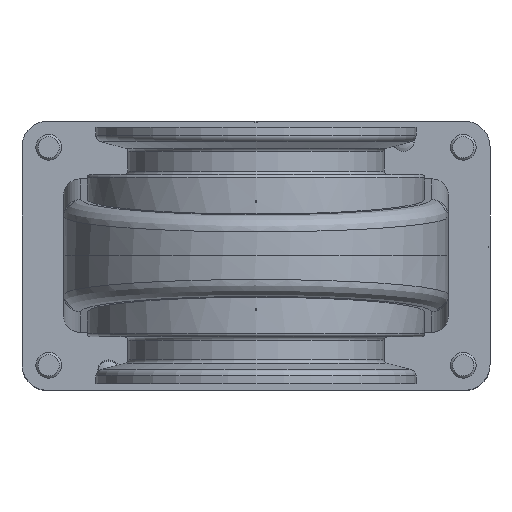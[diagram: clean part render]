
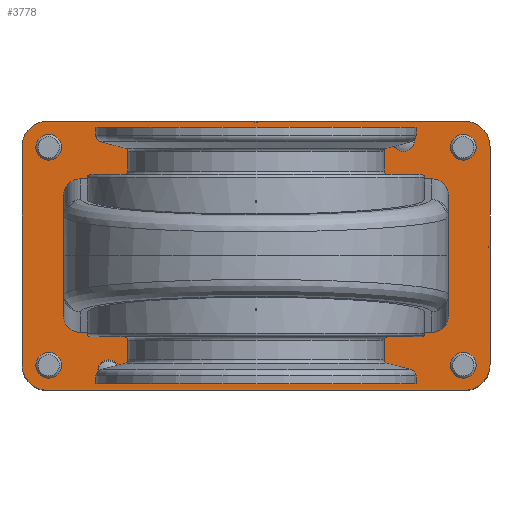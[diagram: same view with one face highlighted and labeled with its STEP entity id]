
A CAD part, front view. The second image highlights one B-rep face of the part: STEP entity #3778.
In plain terms, the highlighted planar face has unit normal (0, -1, 0).
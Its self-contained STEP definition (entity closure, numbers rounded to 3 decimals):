
#3778=ADVANCED_FACE('',(#5201,#5202,#5203,#5204,#5205,#5206,#5207,#5208),
#4618,.T.);
#4618=PLANE('',#18848);
#5201=FACE_BOUND('',#5933,.T.);
#5202=FACE_BOUND('',#5934,.T.);
#5203=FACE_BOUND('',#5935,.T.);
#5204=FACE_BOUND('',#5936,.T.);
#5205=FACE_BOUND('',#5937,.T.);
#5206=FACE_BOUND('',#5938,.T.);
#5207=FACE_BOUND('',#5939,.T.);
#5208=FACE_BOUND('',#5940,.T.);
#5933=EDGE_LOOP('',(#10189));
#5934=EDGE_LOOP('',(#10190));
#5935=EDGE_LOOP('',(#10191));
#5936=EDGE_LOOP('',(#10192));
#5937=EDGE_LOOP('',(#10193));
#5938=EDGE_LOOP('',(#10194));
#5939=EDGE_LOOP('',(#10195,#10196,#10197,#10198,#10199,#10200,#10201,#10202));
#5940=EDGE_LOOP('',(#10203,#10204,#10205,#10206,#10207,#10208,#10209,#10210));
#7086=LINE('',#26523,#8144);
#7093=LINE('',#26709,#8151);
#7107=LINE('',#26738,#8165);
#7133=LINE('',#26823,#8191);
#7138=LINE('',#26835,#8196);
#7142=LINE('',#26844,#8200);
#7146=LINE('',#26859,#8204);
#7151=LINE('',#26873,#8209);
#8144=VECTOR('',#20941,1.);
#8151=VECTOR('',#20950,1.);
#8165=VECTOR('',#20966,1.);
#8191=VECTOR('',#21034,1.);
#8196=VECTOR('',#21045,1.);
#8200=VECTOR('',#21055,1.);
#8204=VECTOR('',#21075,1.);
#8209=VECTOR('',#21092,1.);
#10189=ORIENTED_EDGE('',*,*,#16039,.F.);
#10190=ORIENTED_EDGE('',*,*,#16040,.F.);
#10191=ORIENTED_EDGE('',*,*,#16041,.F.);
#10192=ORIENTED_EDGE('',*,*,#16042,.F.);
#10193=ORIENTED_EDGE('',*,*,#16043,.F.);
#10194=ORIENTED_EDGE('',*,*,#16044,.F.);
#10195=ORIENTED_EDGE('',*,*,#16016,.T.);
#10196=ORIENTED_EDGE('',*,*,#15945,.T.);
#10197=ORIENTED_EDGE('',*,*,#16018,.T.);
#10198=ORIENTED_EDGE('',*,*,#16020,.T.);
#10199=ORIENTED_EDGE('',*,*,#16022,.T.);
#10200=ORIENTED_EDGE('',*,*,#15959,.T.);
#10201=ORIENTED_EDGE('',*,*,#16023,.T.);
#10202=ORIENTED_EDGE('',*,*,#15904,.T.);
#10203=ORIENTED_EDGE('',*,*,#15998,.T.);
#10204=ORIENTED_EDGE('',*,*,#16001,.T.);
#10205=ORIENTED_EDGE('',*,*,#16003,.T.);
#10206=ORIENTED_EDGE('',*,*,#16007,.T.);
#10207=ORIENTED_EDGE('',*,*,#16010,.T.);
#10208=ORIENTED_EDGE('',*,*,#16012,.T.);
#10209=ORIENTED_EDGE('',*,*,#16014,.T.);
#10210=ORIENTED_EDGE('',*,*,#16028,.T.);
#14129=VERTEX_POINT('',#26524);
#14130=VERTEX_POINT('',#26525);
#14170=VERTEX_POINT('',#26708);
#14171=VERTEX_POINT('',#26710);
#14184=VERTEX_POINT('',#26737);
#14185=VERTEX_POINT('',#26739);
#14221=VERTEX_POINT('',#26818);
#14222=VERTEX_POINT('',#26819);
#14223=VERTEX_POINT('',#26824);
#14224=VERTEX_POINT('',#26828);
#14226=VERTEX_POINT('',#26834);
#14228=VERTEX_POINT('',#26841);
#14229=VERTEX_POINT('',#26845);
#14230=VERTEX_POINT('',#26849);
#14231=VERTEX_POINT('',#26856);
#14232=VERTEX_POINT('',#26860);
#14244=VERTEX_POINT('',#26896);
#14245=VERTEX_POINT('',#26898);
#14246=VERTEX_POINT('',#26900);
#14247=VERTEX_POINT('',#26902);
#14248=VERTEX_POINT('',#26904);
#14249=VERTEX_POINT('',#26906);
#15904=EDGE_CURVE('',#14129,#14130,#7086,.T.);
#15945=EDGE_CURVE('',#14171,#14170,#7093,.T.);
#15959=EDGE_CURVE('',#14185,#14184,#7107,.T.);
#15998=EDGE_CURVE('',#14221,#14222,#17914,.T.);
#16001=EDGE_CURVE('',#14222,#14223,#7133,.T.);
#16003=EDGE_CURVE('',#14223,#14224,#17915,.T.);
#16007=EDGE_CURVE('',#14224,#14226,#7138,.T.);
#16010=EDGE_CURVE('',#14226,#14228,#17916,.T.);
#16012=EDGE_CURVE('',#14228,#14229,#7142,.T.);
#16014=EDGE_CURVE('',#14229,#14230,#17917,.T.);
#16016=EDGE_CURVE('',#14130,#14171,#17918,.T.);
#16018=EDGE_CURVE('',#14170,#14231,#17920,.T.);
#16020=EDGE_CURVE('',#14231,#14232,#7146,.T.);
#16022=EDGE_CURVE('',#14232,#14185,#17921,.T.);
#16023=EDGE_CURVE('',#14184,#14129,#17922,.T.);
#16028=EDGE_CURVE('',#14230,#14221,#7151,.T.);
#16039=EDGE_CURVE('',#14244,#14244,#17929,.T.);
#16040=EDGE_CURVE('',#14245,#14245,#17930,.T.);
#16041=EDGE_CURVE('',#14246,#14246,#17931,.T.);
#16042=EDGE_CURVE('',#14247,#14247,#17932,.T.);
#16043=EDGE_CURVE('',#14248,#14248,#17933,.T.);
#16044=EDGE_CURVE('',#14249,#14249,#17934,.T.);
#17914=CIRCLE('',#18813,2.);
#17915=CIRCLE('',#18816,2.);
#17916=CIRCLE('',#18819,2.);
#17917=CIRCLE('',#18822,2.);
#17918=CIRCLE('',#18824,6.);
#17920=CIRCLE('',#18827,6.);
#17921=CIRCLE('',#18830,6.);
#17922=CIRCLE('',#18832,6.);
#17929=CIRCLE('',#18842,2.5);
#17930=CIRCLE('',#18843,2.5);
#17931=CIRCLE('',#18844,2.5);
#17932=CIRCLE('',#18845,2.5);
#17933=CIRCLE('',#18846,2.6);
#17934=CIRCLE('',#18847,2.6);
#18813=AXIS2_PLACEMENT_3D('',#26817,#21028,#21029);
#18816=AXIS2_PLACEMENT_3D('',#26827,#21038,#21039);
#18819=AXIS2_PLACEMENT_3D('',#26840,#21050,#21051);
#18822=AXIS2_PLACEMENT_3D('',#26848,#21059,#21060);
#18824=AXIS2_PLACEMENT_3D('',#26852,#21064,#21065);
#18827=AXIS2_PLACEMENT_3D('',#26855,#21070,#21071);
#18830=AXIS2_PLACEMENT_3D('',#26863,#21079,#21080);
#18832=AXIS2_PLACEMENT_3D('',#26865,#21083,#21084);
#18842=AXIS2_PLACEMENT_3D('',#26895,#21112,#21113);
#18843=AXIS2_PLACEMENT_3D('',#26897,#21114,#21115);
#18844=AXIS2_PLACEMENT_3D('',#26899,#21116,#21117);
#18845=AXIS2_PLACEMENT_3D('',#26901,#21118,#21119);
#18846=AXIS2_PLACEMENT_3D('',#26903,#21120,#21121);
#18847=AXIS2_PLACEMENT_3D('',#26905,#21122,#21123);
#18848=AXIS2_PLACEMENT_3D('',#26907,#21124,#21125);
#20941=DIRECTION('',(0.,0.,1.));
#20950=DIRECTION('',(-1.,0.,0.));
#20966=DIRECTION('',(1.,0.,0.));
#21028=DIRECTION('',(0.,1.,0.));
#21029=DIRECTION('',(-1.,0.,0.));
#21034=DIRECTION('',(0.,0.,1.));
#21038=DIRECTION('',(0.,1.,0.));
#21039=DIRECTION('',(-1.,0.,0.));
#21045=DIRECTION('',(1.,0.,0.));
#21050=DIRECTION('',(0.,1.,0.));
#21051=DIRECTION('',(1.,0.,0.));
#21055=DIRECTION('',(0.,0.,-1.));
#21059=DIRECTION('',(0.,1.,0.));
#21060=DIRECTION('',(1.,0.,0.));
#21064=DIRECTION('',(0.,-1.,0.));
#21065=DIRECTION('',(1.,0.,0.));
#21070=DIRECTION('',(0.,-1.,0.));
#21071=DIRECTION('',(-1.,0.,0.));
#21075=DIRECTION('',(0.,0.,-1.));
#21079=DIRECTION('',(0.,-1.,0.));
#21080=DIRECTION('',(-1.,0.,0.));
#21083=DIRECTION('',(0.,-1.,0.));
#21084=DIRECTION('',(1.,0.,0.));
#21092=DIRECTION('',(-1.,0.,0.));
#21112=DIRECTION('',(0.,-1.,0.));
#21113=DIRECTION('',(0.,0.,-1.));
#21114=DIRECTION('',(0.,-1.,0.));
#21115=DIRECTION('',(0.,0.,-1.));
#21116=DIRECTION('',(0.,-1.,0.));
#21117=DIRECTION('',(0.,0.,-1.));
#21118=DIRECTION('',(0.,-1.,0.));
#21119=DIRECTION('',(0.,0.,-1.));
#21120=DIRECTION('',(0.,-1.,0.));
#21121=DIRECTION('',(0.,0.,-1.));
#21122=DIRECTION('',(0.,-1.,0.));
#21123=DIRECTION('',(0.,0.,-1.));
#21124=DIRECTION('',(0.,-1.,0.));
#21125=DIRECTION('',(-1.,0.,0.));
#26523=CARTESIAN_POINT('',(54.75,125.,-25.5));
#26524=CARTESIAN_POINT('',(54.75,125.,-25.5));
#26525=CARTESIAN_POINT('',(54.75,125.,25.5));
#26708=CARTESIAN_POINT('',(-48.75,125.,31.5));
#26709=CARTESIAN_POINT('',(48.75,125.,31.5));
#26710=CARTESIAN_POINT('',(48.75,125.,31.5));
#26737=CARTESIAN_POINT('',(48.75,125.,-31.5));
#26738=CARTESIAN_POINT('',(-48.75,125.,-31.5));
#26739=CARTESIAN_POINT('',(-48.75,125.,-31.5));
#26817=CARTESIAN_POINT('',(-41.5,125.,-14.5));
#26818=CARTESIAN_POINT('',(-41.5,125.,-16.5));
#26819=CARTESIAN_POINT('',(-43.5,125.,-14.5));
#26823=CARTESIAN_POINT('',(-43.5,125.,-14.5));
#26824=CARTESIAN_POINT('',(-43.5,125.,14.5));
#26827=CARTESIAN_POINT('',(-41.5,125.,14.5));
#26828=CARTESIAN_POINT('',(-41.5,125.,16.5));
#26834=CARTESIAN_POINT('',(41.5,125.,16.5));
#26835=CARTESIAN_POINT('',(-41.5,125.,16.5));
#26840=CARTESIAN_POINT('',(41.5,125.,14.5));
#26841=CARTESIAN_POINT('',(43.5,125.,14.5));
#26844=CARTESIAN_POINT('',(43.5,125.,14.5));
#26845=CARTESIAN_POINT('',(43.5,125.,-14.5));
#26848=CARTESIAN_POINT('',(41.5,125.,-14.5));
#26849=CARTESIAN_POINT('',(41.5,125.,-16.5));
#26852=CARTESIAN_POINT('',(48.75,125.,25.5));
#26855=CARTESIAN_POINT('',(-48.75,125.,25.5));
#26856=CARTESIAN_POINT('',(-54.75,125.,25.5));
#26859=CARTESIAN_POINT('',(-54.75,125.,25.5));
#26860=CARTESIAN_POINT('',(-54.75,125.,-25.5));
#26863=CARTESIAN_POINT('',(-48.75,125.,-25.5));
#26865=CARTESIAN_POINT('',(48.75,125.,-25.5));
#26873=CARTESIAN_POINT('',(41.5,125.,-16.5));
#26895=CARTESIAN_POINT('',(48.5,125.,-25.5));
#26896=CARTESIAN_POINT('',(48.5,125.,-28.));
#26897=CARTESIAN_POINT('',(-48.5,125.,-25.5));
#26898=CARTESIAN_POINT('',(-48.5,125.,-28.));
#26899=CARTESIAN_POINT('',(-48.5,125.,25.5));
#26900=CARTESIAN_POINT('',(-48.5,125.,23.));
#26901=CARTESIAN_POINT('',(48.5,125.,25.5));
#26902=CARTESIAN_POINT('',(48.5,125.,23.));
#26903=CARTESIAN_POINT('',(-34.5,125.,-27.));
#26904=CARTESIAN_POINT('',(-34.5,125.,-29.6));
#26905=CARTESIAN_POINT('',(34.5,125.,27.));
#26906=CARTESIAN_POINT('',(34.5,125.,24.4));
#26907=CARTESIAN_POINT('',(48.75,125.,25.5));
